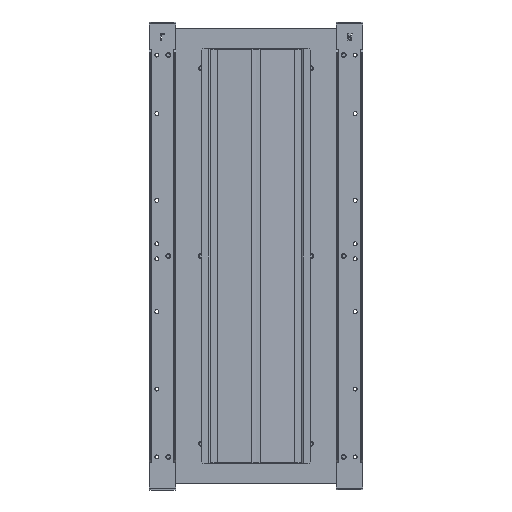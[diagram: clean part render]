
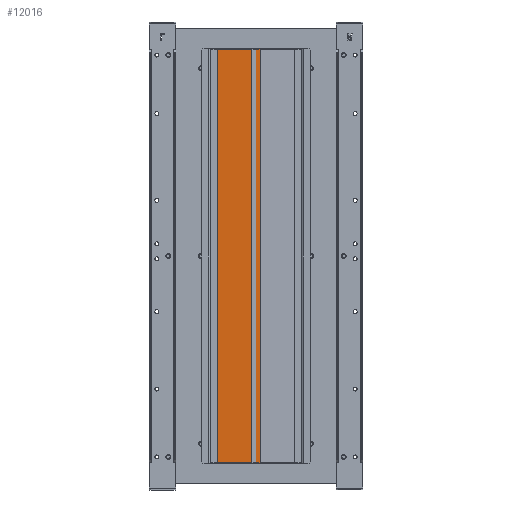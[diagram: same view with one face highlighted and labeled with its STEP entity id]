
A CAD part, front view. The second image highlights one B-rep face of the part: STEP entity #12016.
In plain terms, the highlighted planar face has unit normal (-0.033, -1, 0) as drawn and (-0.999, 0.032, 0) by its records, which use the part's own axes.
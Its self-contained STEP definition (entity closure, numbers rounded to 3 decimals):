
#72 = CARTESIAN_POINT ( 'NONE',  ( 1.25, -4.7, 438. ) ) ;
#640 = EDGE_CURVE ( 'NONE', #9786, #10674, #10473, .T. ) ;
#1253 = VECTOR ( 'NONE', #8495, 1000. ) ;
#1708 = CARTESIAN_POINT ( 'NONE',  ( 1.25, -4.7, 0. ) ) ;
#2076 = EDGE_LOOP ( 'NONE', ( #7927, #2551, #12810, #9453 ) ) ;
#2492 = VECTOR ( 'NONE', #5958, 1000. ) ;
#2551 = ORIENTED_EDGE ( 'NONE', *, *, #7315, .F. ) ;
#3111 = LINE ( 'NONE', #8957, #11084 ) ;
#4062 = CARTESIAN_POINT ( 'NONE',  ( -0.25, -50.9, 438. ) ) ;
#4319 = CARTESIAN_POINT ( 'NONE',  ( 1.25, -4.7, 438. ) ) ;
#4535 = EDGE_CURVE ( 'NONE', #6065, #5738, #3111, .T. ) ;
#4623 = CARTESIAN_POINT ( 'NONE',  ( 1.25, -4.7, 0. ) ) ;
#5026 = CARTESIAN_POINT ( 'NONE',  ( -0.25, -50.9, 438. ) ) ;
#5340 = DIRECTION ( 'NONE',  ( 0.032, 0.999, 0. ) ) ;
#5738 = VERTEX_POINT ( 'NONE', #5026 ) ;
#5958 = DIRECTION ( 'NONE',  ( -0.032, -0.999, 0. ) ) ;
#6065 = VERTEX_POINT ( 'NONE', #7555 ) ;
#6883 = DIRECTION ( 'NONE',  ( -0.032, -0.999, 0. ) ) ;
#7141 = CARTESIAN_POINT ( 'NONE',  ( -0.25, -50.9, 0. ) ) ;
#7315 = EDGE_CURVE ( 'NONE', #5738, #10674, #11656, .T. ) ;
#7555 = CARTESIAN_POINT ( 'NONE',  ( 1.25, -4.7, 438. ) ) ;
#7927 = ORIENTED_EDGE ( 'NONE', *, *, #640, .T. ) ;
#7954 = FACE_OUTER_BOUND ( 'NONE', #2076, .T. ) ;
#8495 = DIRECTION ( 'NONE',  ( 0., 0., -1. ) ) ;
#8957 = CARTESIAN_POINT ( 'NONE',  ( 1.25, -4.7, 438. ) ) ;
#9453 = ORIENTED_EDGE ( 'NONE', *, *, #11377, .T. ) ;
#9786 = VERTEX_POINT ( 'NONE', #1708 ) ;
#10216 = DIRECTION ( 'NONE',  ( 0., 0., -1. ) ) ;
#10473 = LINE ( 'NONE', #4623, #2492 ) ;
#10474 = PLANE ( 'NONE',  #10633 ) ;
#10633 = AXIS2_PLACEMENT_3D ( 'NONE', #4319, #11544, #5340 ) ;
#10674 = VERTEX_POINT ( 'NONE', #7141 ) ;
#11084 = VECTOR ( 'NONE', #6883, 1000. ) ;
#11340 = VECTOR ( 'NONE', #10216, 1000. ) ;
#11377 = EDGE_CURVE ( 'NONE', #6065, #9786, #12377, .T. ) ;
#11544 = DIRECTION ( 'NONE',  ( 0.999, -0.032, 0. ) ) ;
#11656 = LINE ( 'NONE', #4062, #11340 ) ;
#12016 = ADVANCED_FACE ( 'NONE', ( #7954 ), #10474, .F. ) ;
#12377 = LINE ( 'NONE', #72, #1253 ) ;
#12810 = ORIENTED_EDGE ( 'NONE', *, *, #4535, .F. ) ;
